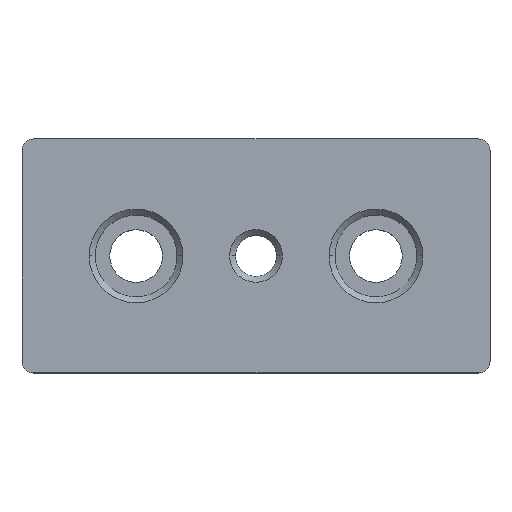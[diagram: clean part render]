
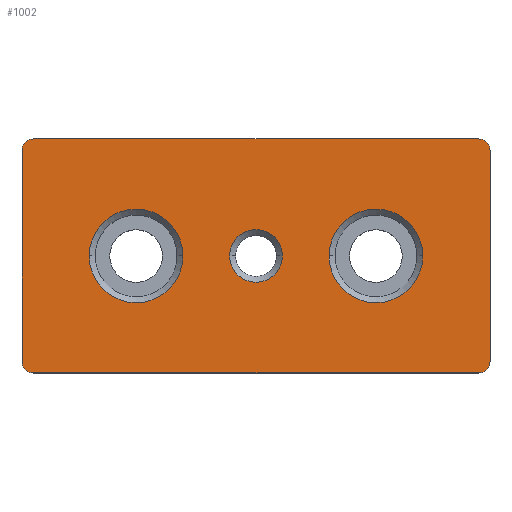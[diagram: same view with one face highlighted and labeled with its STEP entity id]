
A CAD part, top view. The second image highlights one B-rep face of the part: STEP entity #1002.
In plain terms, the highlighted planar face has unit normal (0, 0, 1).
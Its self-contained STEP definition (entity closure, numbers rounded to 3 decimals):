
#3 = DIRECTION ( 'NONE',  ( 1., 0., 0. ) ) ;
#23 = ORIENTED_EDGE ( 'NONE', *, *, #312, .T. ) ;
#33 = CARTESIAN_POINT ( 'NONE',  ( -32.7, 14.459, 12. ) ) ;
#39 = DIRECTION ( 'NONE',  ( 1., 0., 0. ) ) ;
#40 = DIRECTION ( 'NONE',  ( 0., 0., -1. ) ) ;
#43 = VERTEX_POINT ( 'NONE', #73 ) ;
#44 = AXIS2_PLACEMENT_3D ( 'NONE', #1020, #564, #39 ) ;
#60 = DIRECTION ( 'NONE',  ( 0., 0., -1. ) ) ;
#61 = CIRCLE ( 'NONE', #895, 2. ) ;
#73 = CARTESIAN_POINT ( 'NONE',  ( 45.3, -23.541, 12. ) ) ;
#81 = EDGE_CURVE ( 'NONE', #959, #221, #756, .T. ) ;
#89 = CIRCLE ( 'NONE', #822, 8. ) ;
#92 = DIRECTION ( 'NONE',  ( 0., 1., 0. ) ) ;
#110 = DIRECTION ( 'NONE',  ( 0., 0., 1. ) ) ;
#118 = CARTESIAN_POINT ( 'NONE',  ( -32.7, -23.541, 12. ) ) ;
#120 = DIRECTION ( 'NONE',  ( 0., 0., 1. ) ) ;
#134 = CARTESIAN_POINT ( 'NONE',  ( 33.8, -5.541, 12. ) ) ;
#142 = EDGE_CURVE ( 'NONE', #1003, #208, #761, .T. ) ;
#145 = CARTESIAN_POINT ( 'NONE',  ( -34.7, -25.541, 12. ) ) ;
#147 = ORIENTED_EDGE ( 'NONE', *, *, #81, .T. ) ;
#157 = ORIENTED_EDGE ( 'NONE', *, *, #327, .T. ) ;
#193 = EDGE_CURVE ( 'NONE', #965, #809, #521, .T. ) ;
#198 = DIRECTION ( 'NONE',  ( 1., 0., 0. ) ) ;
#202 = CARTESIAN_POINT ( 'NONE',  ( 0., 0., 12. ) ) ;
#208 = VERTEX_POINT ( 'NONE', #505 ) ;
#211 = EDGE_CURVE ( 'NONE', #43, #458, #629, .T. ) ;
#216 = ORIENTED_EDGE ( 'NONE', *, *, #338, .T. ) ;
#221 = VERTEX_POINT ( 'NONE', #772 ) ;
#229 = CARTESIAN_POINT ( 'NONE',  ( -15.2, -5.541, 12. ) ) ;
#231 = CIRCLE ( 'NONE', #44, 4.5 ) ;
#249 = AXIS2_PLACEMENT_3D ( 'NONE', #118, #719, #198 ) ;
#259 = CIRCLE ( 'NONE', #249, 2. ) ;
#260 = EDGE_CURVE ( 'NONE', #591, #1055, #359, .T. ) ;
#269 = ORIENTED_EDGE ( 'NONE', *, *, #285, .T. ) ;
#283 = CARTESIAN_POINT ( 'NONE',  ( -32.7, 12.459, 12. ) ) ;
#285 = EDGE_CURVE ( 'NONE', #1056, #705, #769, .T. ) ;
#292 = CIRCLE ( 'NONE', #920, 2. ) ;
#296 = EDGE_CURVE ( 'NONE', #827, #634, #529, .T. ) ;
#301 = EDGE_CURVE ( 'NONE', #221, #959, #89, .T. ) ;
#312 = EDGE_CURVE ( 'NONE', #809, #43, #61, .T. ) ;
#320 = EDGE_CURVE ( 'NONE', #458, #591, #917, .T. ) ;
#324 = CARTESIAN_POINT ( 'NONE',  ( 45.3, 14.459, 12. ) ) ;
#325 = DIRECTION ( 'NONE',  ( 1., 0., 0. ) ) ;
#327 = EDGE_CURVE ( 'NONE', #1055, #1003, #292, .T. ) ;
#338 = EDGE_CURVE ( 'NONE', #208, #965, #259, .T. ) ;
#340 = ORIENTED_EDGE ( 'NONE', *, *, #260, .T. ) ;
#359 = LINE ( 'NONE', #964, #971 ) ;
#369 = FACE_BOUND ( 'NONE', #903, .T. ) ;
#372 = DIRECTION ( 'NONE',  ( 1., 0., 0. ) ) ;
#378 = DIRECTION ( 'NONE',  ( 1., 0., 0. ) ) ;
#398 = DIRECTION ( 'NONE',  ( 0., 0., -1. ) ) ;
#399 = VECTOR ( 'NONE', #92, 1000. ) ;
#401 = AXIS2_PLACEMENT_3D ( 'NONE', #443, #921, #3 ) ;
#410 = ORIENTED_EDGE ( 'NONE', *, *, #583, .T. ) ;
#415 = CARTESIAN_POINT ( 'NONE',  ( 9.8, -5.541, 12. ) ) ;
#435 = ORIENTED_EDGE ( 'NONE', *, *, #193, .T. ) ;
#443 = CARTESIAN_POINT ( 'NONE',  ( -15.2, -5.541, 12. ) ) ;
#450 = ORIENTED_EDGE ( 'NONE', *, *, #508, .T. ) ;
#456 = DIRECTION ( 'NONE',  ( 1., 0., 0. ) ) ;
#458 = VERTEX_POINT ( 'NONE', #526 ) ;
#471 = FACE_OUTER_BOUND ( 'NONE', #763, .T. ) ;
#505 = CARTESIAN_POINT ( 'NONE',  ( -34.7, -23.541, 12. ) ) ;
#508 = EDGE_CURVE ( 'NONE', #705, #1056, #231, .T. ) ;
#521 = LINE ( 'NONE', #145, #1053 ) ;
#526 = CARTESIAN_POINT ( 'NONE',  ( 45.3, 12.459, 12. ) ) ;
#529 = CIRCLE ( 'NONE', #797, 8. ) ;
#532 = AXIS2_PLACEMENT_3D ( 'NONE', #565, #40, #644 ) ;
#548 = VECTOR ( 'NONE', #807, 1000. ) ;
#564 = DIRECTION ( 'NONE',  ( 0., 0., -1. ) ) ;
#565 = CARTESIAN_POINT ( 'NONE',  ( 25.8, -5.541, 12. ) ) ;
#569 = AXIS2_PLACEMENT_3D ( 'NONE', #202, #120, #378 ) ;
#576 = DIRECTION ( 'NONE',  ( -1., 0., 0. ) ) ;
#583 = EDGE_CURVE ( 'NONE', #634, #827, #1006, .T. ) ;
#584 = CARTESIAN_POINT ( 'NONE',  ( 25.8, -5.541, 12. ) ) ;
#591 = VERTEX_POINT ( 'NONE', #802 ) ;
#624 = CARTESIAN_POINT ( 'NONE',  ( 43.3, 12.459, 12. ) ) ;
#629 = LINE ( 'NONE', #324, #399 ) ;
#634 = VERTEX_POINT ( 'NONE', #134 ) ;
#644 = DIRECTION ( 'NONE',  ( 1., 0., 0. ) ) ;
#659 = DIRECTION ( 'NONE',  ( 1., 0., 0. ) ) ;
#675 = CARTESIAN_POINT ( 'NONE',  ( 43.3, -25.541, 12. ) ) ;
#699 = AXIS2_PLACEMENT_3D ( 'NONE', #886, #398, #972 ) ;
#705 = VERTEX_POINT ( 'NONE', #415 ) ;
#715 = DIRECTION ( 'NONE',  ( 1., 0., 0. ) ) ;
#717 = AXIS2_PLACEMENT_3D ( 'NONE', #624, #110, #715 ) ;
#719 = DIRECTION ( 'NONE',  ( 0., 0., 1. ) ) ;
#728 = CARTESIAN_POINT ( 'NONE',  ( 0.8, -5.541, 12. ) ) ;
#754 = ORIENTED_EDGE ( 'NONE', *, *, #296, .T. ) ;
#756 = CIRCLE ( 'NONE', #401, 8. ) ;
#761 = LINE ( 'NONE', #1022, #548 ) ;
#763 = EDGE_LOOP ( 'NONE', ( #435, #23, #1051, #1050, #340, #157, #957, #216 ) ) ;
#767 = FACE_BOUND ( 'NONE', #905, .T. ) ;
#769 = CIRCLE ( 'NONE', #699, 4.5 ) ;
#772 = CARTESIAN_POINT ( 'NONE',  ( -23.2, -5.541, 12. ) ) ;
#793 = CARTESIAN_POINT ( 'NONE',  ( -32.7, -25.541, 12. ) ) ;
#795 = CARTESIAN_POINT ( 'NONE',  ( -34.7, 12.459, 12. ) ) ;
#797 = AXIS2_PLACEMENT_3D ( 'NONE', #584, #60, #659 ) ;
#802 = CARTESIAN_POINT ( 'NONE',  ( 43.3, 14.459, 12. ) ) ;
#807 = DIRECTION ( 'NONE',  ( 0., -1., 0. ) ) ;
#809 = VERTEX_POINT ( 'NONE', #675 ) ;
#814 = DIRECTION ( 'NONE',  ( 0., 0., -1. ) ) ;
#822 = AXIS2_PLACEMENT_3D ( 'NONE', #229, #814, #325 ) ;
#824 = FACE_BOUND ( 'NONE', #900, .T. ) ;
#827 = VERTEX_POINT ( 'NONE', #906 ) ;
#861 = DIRECTION ( 'NONE',  ( 0., 0., 1. ) ) ;
#868 = PLANE ( 'NONE',  #569 ) ;
#882 = ORIENTED_EDGE ( 'NONE', *, *, #301, .T. ) ;
#886 = CARTESIAN_POINT ( 'NONE',  ( 5.3, -5.541, 12. ) ) ;
#890 = DIRECTION ( 'NONE',  ( 1., 0., 0. ) ) ;
#895 = AXIS2_PLACEMENT_3D ( 'NONE', #973, #937, #456 ) ;
#900 = EDGE_LOOP ( 'NONE', ( #147, #882 ) ) ;
#903 = EDGE_LOOP ( 'NONE', ( #450, #269 ) ) ;
#905 = EDGE_LOOP ( 'NONE', ( #410, #754 ) ) ;
#906 = CARTESIAN_POINT ( 'NONE',  ( 17.8, -5.541, 12. ) ) ;
#917 = CIRCLE ( 'NONE', #717, 2. ) ;
#920 = AXIS2_PLACEMENT_3D ( 'NONE', #283, #861, #372 ) ;
#921 = DIRECTION ( 'NONE',  ( 0., 0., -1. ) ) ;
#937 = DIRECTION ( 'NONE',  ( 0., 0., 1. ) ) ;
#948 = CARTESIAN_POINT ( 'NONE',  ( -7.2, -5.541, 12. ) ) ;
#957 = ORIENTED_EDGE ( 'NONE', *, *, #142, .T. ) ;
#959 = VERTEX_POINT ( 'NONE', #948 ) ;
#964 = CARTESIAN_POINT ( 'NONE',  ( -34.7, 14.459, 12. ) ) ;
#965 = VERTEX_POINT ( 'NONE', #793 ) ;
#971 = VECTOR ( 'NONE', #576, 1000. ) ;
#972 = DIRECTION ( 'NONE',  ( 1., 0., 0. ) ) ;
#973 = CARTESIAN_POINT ( 'NONE',  ( 43.3, -23.541, 12. ) ) ;
#1002 = ADVANCED_FACE ( 'NONE', ( #369, #767, #824, #471 ), #868, .T. ) ;
#1003 = VERTEX_POINT ( 'NONE', #795 ) ;
#1006 = CIRCLE ( 'NONE', #532, 8. ) ;
#1020 = CARTESIAN_POINT ( 'NONE',  ( 5.3, -5.541, 12. ) ) ;
#1022 = CARTESIAN_POINT ( 'NONE',  ( -34.7, 14.459, 12. ) ) ;
#1050 = ORIENTED_EDGE ( 'NONE', *, *, #320, .T. ) ;
#1051 = ORIENTED_EDGE ( 'NONE', *, *, #211, .T. ) ;
#1053 = VECTOR ( 'NONE', #890, 1000. ) ;
#1055 = VERTEX_POINT ( 'NONE', #33 ) ;
#1056 = VERTEX_POINT ( 'NONE', #728 ) ;
